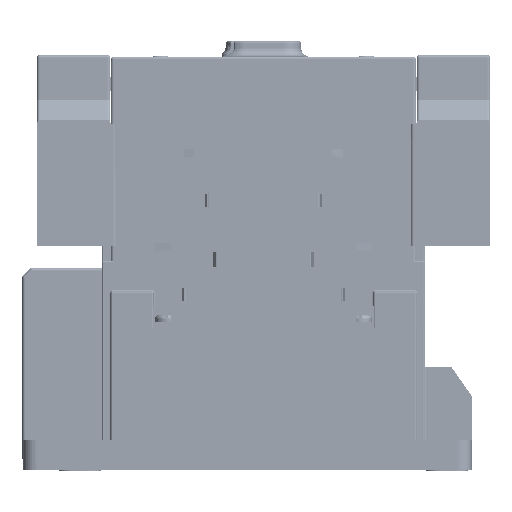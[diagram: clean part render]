
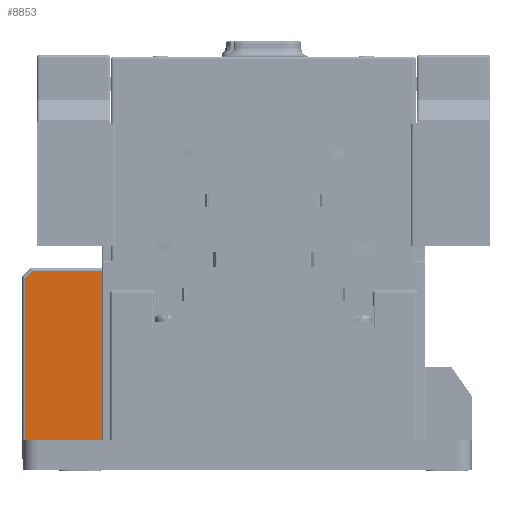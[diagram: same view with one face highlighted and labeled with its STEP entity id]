
A CAD part, top view. The second image highlights one B-rep face of the part: STEP entity #8853.
In plain terms, the highlighted planar face has unit normal (0, 0, 1).
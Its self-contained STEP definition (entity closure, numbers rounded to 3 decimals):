
#8853=ADVANCED_FACE('',(#41331,#41332,#41333),#14261,.F.);
#14261=PLANE('',#107147);
#17638=LINE('',#142160,#29546);
#17824=LINE('',#142573,#29732);
#18615=LINE('',#144343,#30523);
#19065=LINE('',#145395,#30973);
#19069=LINE('',#145404,#30977);
#20742=LINE('',#149057,#32650);
#20864=LINE('',#149291,#32772);
#20865=LINE('',#149294,#32773);
#20866=LINE('',#149295,#32774);
#20867=LINE('',#149296,#32775);
#20868=LINE('',#149299,#32776);
#20869=LINE('',#149300,#32777);
#20870=LINE('',#149301,#32778);
#20871=LINE('',#149303,#32779);
#20872=LINE('',#149305,#32780);
#20873=LINE('',#149307,#32781);
#20874=LINE('',#149309,#32782);
#20875=LINE('',#149311,#32783);
#20876=LINE('',#149312,#32784);
#20877=LINE('',#149313,#32785);
#20878=LINE('',#149315,#32786);
#29546=VECTOR('',#114173,1.);
#29732=VECTOR('',#114491,1.);
#30523=VECTOR('',#115752,1.);
#30973=VECTOR('',#116528,1.);
#30977=VECTOR('',#116534,1.);
#32650=VECTOR('',#119697,1.);
#32772=VECTOR('',#119861,1.);
#32773=VECTOR('',#119862,1.);
#32774=VECTOR('',#119863,1.);
#32775=VECTOR('',#119864,1.);
#32776=VECTOR('',#119865,1.);
#32777=VECTOR('',#119866,1.);
#32778=VECTOR('',#119867,1.);
#32779=VECTOR('',#119868,1.);
#32780=VECTOR('',#119869,1.);
#32781=VECTOR('',#119870,1.);
#32782=VECTOR('',#119871,1.);
#32783=VECTOR('',#119872,1.);
#32784=VECTOR('',#119873,1.);
#32785=VECTOR('',#119874,1.);
#32786=VECTOR('',#119875,1.);
#41331=FACE_BOUND('',#42894,.T.);
#41332=FACE_BOUND('',#42895,.T.);
#41333=FACE_BOUND('',#42896,.T.);
#42894=EDGE_LOOP('',(#53628,#53629,#53630,#53631));
#42895=EDGE_LOOP('',(#53632,#53633,#53634,#53635));
#42896=EDGE_LOOP('',(#53636,#53637,#53638,#53639,#53640,#53641,#53642,#53643,
#53644,#53645,#53646,#53647,#53648));
#53628=ORIENTED_EDGE('',*,*,#92039,.F.);
#53629=ORIENTED_EDGE('',*,*,#92040,.F.);
#53630=ORIENTED_EDGE('',*,*,#90076,.F.);
#53631=ORIENTED_EDGE('',*,*,#92041,.F.);
#53632=ORIENTED_EDGE('',*,*,#92042,.F.);
#53633=ORIENTED_EDGE('',*,*,#92043,.F.);
#53634=ORIENTED_EDGE('',*,*,#90072,.F.);
#53635=ORIENTED_EDGE('',*,*,#92044,.F.);
#53636=ORIENTED_EDGE('',*,*,#88482,.F.);
#53637=ORIENTED_EDGE('',*,*,#92045,.T.);
#53638=ORIENTED_EDGE('',*,*,#92046,.F.);
#53639=ORIENTED_EDGE('',*,*,#92047,.F.);
#53640=ORIENTED_EDGE('',*,*,#92048,.F.);
#53641=ORIENTED_EDGE('',*,*,#92049,.T.);
#53642=ORIENTED_EDGE('',*,*,#92050,.F.);
#53643=ORIENTED_EDGE('',*,*,#88691,.F.);
#53644=ORIENTED_EDGE('',*,*,#89557,.T.);
#53645=ORIENTED_EDGE('',*,*,#92051,.F.);
#53646=ORIENTED_EDGE('',*,*,#91914,.T.);
#53647=ORIENTED_EDGE('',*,*,#92052,.T.);
#53648=ORIENTED_EDGE('',*,*,#92053,.T.);
#78544=VERTEX_POINT('',#142158);
#78546=VERTEX_POINT('',#142161);
#78694=VERTEX_POINT('',#142564);
#78698=VERTEX_POINT('',#142572);
#79415=VERTEX_POINT('',#144344);
#79787=VERTEX_POINT('',#145390);
#79789=VERTEX_POINT('',#145394);
#79791=VERTEX_POINT('',#145399);
#79793=VERTEX_POINT('',#145403);
#81025=VERTEX_POINT('',#149058);
#81026=VERTEX_POINT('',#149059);
#81112=VERTEX_POINT('',#149292);
#81113=VERTEX_POINT('',#149293);
#81114=VERTEX_POINT('',#149297);
#81115=VERTEX_POINT('',#149298);
#81116=VERTEX_POINT('',#149302);
#81117=VERTEX_POINT('',#149304);
#81118=VERTEX_POINT('',#149306);
#81119=VERTEX_POINT('',#149308);
#81120=VERTEX_POINT('',#149310);
#81121=VERTEX_POINT('',#149314);
#88482=EDGE_CURVE('',#78544,#78546,#17638,.T.);
#88691=EDGE_CURVE('',#78698,#78694,#17824,.T.);
#89557=EDGE_CURVE('',#78698,#79415,#18615,.T.);
#90072=EDGE_CURVE('',#79789,#79787,#19065,.T.);
#90076=EDGE_CURVE('',#79793,#79791,#19069,.T.);
#91914=EDGE_CURVE('',#81025,#81026,#20742,.T.);
#92039=EDGE_CURVE('',#81112,#81113,#20864,.T.);
#92040=EDGE_CURVE('',#79791,#81112,#20865,.T.);
#92041=EDGE_CURVE('',#81113,#79793,#20866,.T.);
#92042=EDGE_CURVE('',#81114,#81115,#20867,.T.);
#92043=EDGE_CURVE('',#79787,#81114,#20868,.T.);
#92044=EDGE_CURVE('',#81115,#79789,#20869,.T.);
#92045=EDGE_CURVE('',#78544,#81116,#20870,.T.);
#92046=EDGE_CURVE('',#81117,#81116,#20871,.T.);
#92047=EDGE_CURVE('',#81118,#81117,#20872,.T.);
#92048=EDGE_CURVE('',#81119,#81118,#20873,.T.);
#92049=EDGE_CURVE('',#81119,#81120,#20874,.T.);
#92050=EDGE_CURVE('',#78694,#81120,#20875,.T.);
#92051=EDGE_CURVE('',#81025,#79415,#20876,.T.);
#92052=EDGE_CURVE('',#81026,#81121,#20877,.T.);
#92053=EDGE_CURVE('',#81121,#78546,#20878,.T.);
#107147=AXIS2_PLACEMENT_3D('',#149316,#119876,#119877);
#114173=DIRECTION('',(-1.,0.,0.));
#114491=DIRECTION('',(0.,-1.,0.));
#115752=DIRECTION('',(-1.,0.,0.));
#116528=DIRECTION('',(1.,0.,0.));
#116534=DIRECTION('',(1.,0.,0.));
#119697=DIRECTION('',(-1.,0.,0.));
#119861=DIRECTION('',(-1.,0.,0.));
#119862=DIRECTION('',(0.,1.,0.));
#119863=DIRECTION('',(0.,-1.,0.));
#119864=DIRECTION('',(-1.,0.,0.));
#119865=DIRECTION('',(0.,1.,0.));
#119866=DIRECTION('',(0.,-1.,0.));
#119867=DIRECTION('',(0.,1.,0.));
#119868=DIRECTION('',(1.,0.,0.));
#119869=DIRECTION('',(0.,-1.,0.));
#119870=DIRECTION('',(-1.,0.,0.));
#119871=DIRECTION('',(0.,1.,0.));
#119872=DIRECTION('',(-1.,0.,0.));
#119873=DIRECTION('',(0.,-1.,0.));
#119874=DIRECTION('',(-0.707,-0.707,0.));
#119875=DIRECTION('',(0.,-1.,0.));
#119876=DIRECTION('',(0.,0.,-1.));
#119877=DIRECTION('',(-1.,0.,0.));
#142158=CARTESIAN_POINT('',(-45.575,-128.05,28.5));
#142160=CARTESIAN_POINT('',(-57.2,-128.05,28.5));
#142161=CARTESIAN_POINT('',(-75.45,-128.05,28.5));
#142564=CARTESIAN_POINT('',(-37.25,-87.7,28.5));
#142572=CARTESIAN_POINT('',(-37.25,-76.014,28.5));
#142573=CARTESIAN_POINT('',(-37.25,-63.05,28.5));
#144343=CARTESIAN_POINT('',(-57.2,-76.014,28.5));
#144344=CARTESIAN_POINT('',(-40.25,-76.014,28.5));
#145390=CARTESIAN_POINT('',(-52.6,-127.05,28.5));
#145394=CARTESIAN_POINT('',(-57.6,-127.05,28.5));
#145395=CARTESIAN_POINT('',(-52.6,-127.05,28.5));
#145399=CARTESIAN_POINT('',(-65.1,-127.05,28.5));
#145403=CARTESIAN_POINT('',(-70.1,-127.05,28.5));
#145404=CARTESIAN_POINT('',(-65.1,-127.05,28.5));
#149057=CARTESIAN_POINT('',(-57.2,-64.05,28.5));
#149058=CARTESIAN_POINT('',(-40.25,-64.05,28.5));
#149059=CARTESIAN_POINT('',(-73.036,-64.05,28.5));
#149291=CARTESIAN_POINT('',(-65.1,-125.85,28.5));
#149292=CARTESIAN_POINT('',(-65.1,-125.85,28.5));
#149293=CARTESIAN_POINT('',(-70.1,-125.85,28.5));
#149294=CARTESIAN_POINT('',(-65.1,-127.05,28.5));
#149295=CARTESIAN_POINT('',(-70.1,-127.05,28.5));
#149296=CARTESIAN_POINT('',(-52.6,-125.85,28.5));
#149297=CARTESIAN_POINT('',(-52.6,-125.85,28.5));
#149298=CARTESIAN_POINT('',(-57.6,-125.85,28.5));
#149299=CARTESIAN_POINT('',(-52.6,-127.05,28.5));
#149300=CARTESIAN_POINT('',(-57.6,-127.05,28.5));
#149301=CARTESIAN_POINT('',(-45.575,-83.05,28.5));
#149302=CARTESIAN_POINT('',(-45.575,-108.05,28.5));
#149303=CARTESIAN_POINT('',(-33.75,-108.05,28.5));
#149304=CARTESIAN_POINT('',(-48.75,-108.05,28.5));
#149305=CARTESIAN_POINT('',(-48.75,-108.05,28.5));
#149306=CARTESIAN_POINT('',(-48.75,-106.05,28.5));
#149307=CARTESIAN_POINT('',(-48.75,-106.05,28.5));
#149308=CARTESIAN_POINT('',(-45.575,-106.05,28.5));
#149309=CARTESIAN_POINT('',(-45.575,-83.05,28.5));
#149310=CARTESIAN_POINT('',(-45.575,-87.7,28.5));
#149311=CARTESIAN_POINT('',(-57.2,-87.7,28.5));
#149312=CARTESIAN_POINT('',(-40.25,-83.05,28.5));
#149313=CARTESIAN_POINT('',(-75.743,-66.757,28.5));
#149314=CARTESIAN_POINT('',(-75.45,-66.464,28.5));
#149315=CARTESIAN_POINT('',(-75.45,-128.05,28.5));
#149316=CARTESIAN_POINT('',(-57.2,-83.05,28.5));
